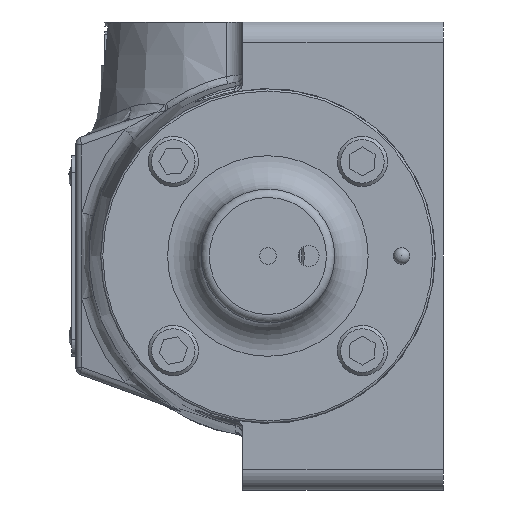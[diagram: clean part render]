
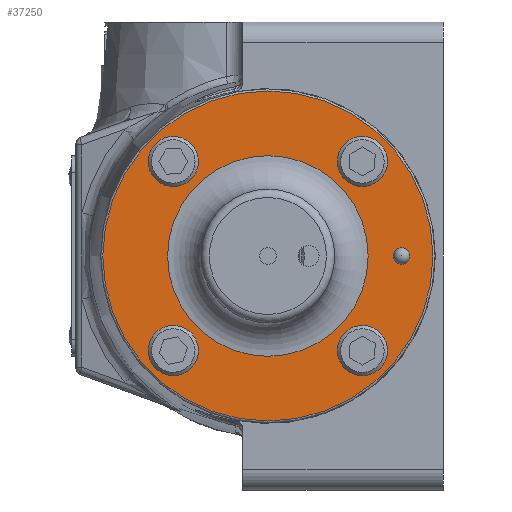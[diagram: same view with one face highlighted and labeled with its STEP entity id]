
A CAD part, left-side view. The second image highlights one B-rep face of the part: STEP entity #37250.
In plain terms, the highlighted planar face has unit normal (-1, 0, 0).
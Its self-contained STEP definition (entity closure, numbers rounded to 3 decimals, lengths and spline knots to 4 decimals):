
#2261=FACE_BOUND('',#6313,.T.);
#2262=FACE_BOUND('',#6314,.T.);
#2263=FACE_BOUND('',#6315,.T.);
#2264=FACE_BOUND('',#6316,.T.);
#2265=FACE_BOUND('',#6317,.T.);
#2266=FACE_BOUND('',#6318,.T.);
#2824=PLANE('',#40262);
#4011=FACE_OUTER_BOUND('',#6312,.T.);
#6312=EDGE_LOOP('',(#27212));
#6313=EDGE_LOOP('',(#27213));
#6314=EDGE_LOOP('',(#27214));
#6315=EDGE_LOOP('',(#27215));
#6316=EDGE_LOOP('',(#27216));
#6317=EDGE_LOOP('',(#27217,#27218));
#6318=EDGE_LOOP('',(#27219));
#8638=CIRCLE('',#40187,1.905);
#8648=CIRCLE('',#40202,3.1353);
#8670=CIRCLE('',#40250,0.1588);
#8671=CIRCLE('',#40251,0.1588);
#8677=CIRCLE('',#40263,0.4763);
#8678=CIRCLE('',#40264,0.4763);
#8679=CIRCLE('',#40265,0.4763);
#8680=CIRCLE('',#40266,0.4763);
#15638=VERTEX_POINT('',#61425);
#15646=VERTEX_POINT('',#61450);
#15686=VERTEX_POINT('',#61578);
#15687=VERTEX_POINT('',#61579);
#15694=VERTEX_POINT('',#61603);
#15695=VERTEX_POINT('',#61605);
#15696=VERTEX_POINT('',#61607);
#15697=VERTEX_POINT('',#61609);
#19745=EDGE_CURVE('',#15638,#15638,#8638,.T.);
#19757=EDGE_CURVE('',#15646,#15646,#8648,.T.);
#19818=EDGE_CURVE('',#15686,#15687,#8670,.T.);
#19819=EDGE_CURVE('',#15687,#15686,#8671,.T.);
#19829=EDGE_CURVE('',#15694,#15694,#8677,.T.);
#19830=EDGE_CURVE('',#15695,#15695,#8678,.T.);
#19831=EDGE_CURVE('',#15696,#15696,#8679,.T.);
#19832=EDGE_CURVE('',#15697,#15697,#8680,.T.);
#27212=ORIENTED_EDGE('',*,*,#19757,.F.);
#27213=ORIENTED_EDGE('',*,*,#19829,.T.);
#27214=ORIENTED_EDGE('',*,*,#19830,.T.);
#27215=ORIENTED_EDGE('',*,*,#19831,.T.);
#27216=ORIENTED_EDGE('',*,*,#19832,.T.);
#27217=ORIENTED_EDGE('',*,*,#19818,.T.);
#27218=ORIENTED_EDGE('',*,*,#19819,.T.);
#27219=ORIENTED_EDGE('',*,*,#19745,.F.);
#37250=ADVANCED_FACE('',(#4011,#2261,#2262,#2263,#2264,#2265,#2266),#2824,
 .F.);
#40187=AXIS2_PLACEMENT_3D('',#61427,#46414,#46415);
#40202=AXIS2_PLACEMENT_3D('',#61452,#46446,#46447);
#40250=AXIS2_PLACEMENT_3D('',#61580,#46581,#46582);
#40251=AXIS2_PLACEMENT_3D('',#61581,#46583,#46584);
#40262=AXIS2_PLACEMENT_3D('',#61602,#46609,#46610);
#40263=AXIS2_PLACEMENT_3D('',#61604,#46611,#46612);
#40264=AXIS2_PLACEMENT_3D('',#61606,#46613,#46614);
#40265=AXIS2_PLACEMENT_3D('',#61608,#46615,#46616);
#40266=AXIS2_PLACEMENT_3D('',#61610,#46617,#46618);
#46414=DIRECTION('center_axis',(-1.,0.,0.));
#46415=DIRECTION('ref_axis',(0.,0.,
-1.));
#46446=DIRECTION('center_axis',(1.,0.,0.));
#46447=DIRECTION('ref_axis',(0.,0.,
-1.));
#46581=DIRECTION('center_axis',(1.,0.,0.));
#46582=DIRECTION('ref_axis',(0.,0.,
-1.));
#46583=DIRECTION('center_axis',(1.,0.,0.));
#46584=DIRECTION('ref_axis',(0.,0.,
-1.));
#46609=DIRECTION('center_axis',(1.,0.,0.));
#46610=DIRECTION('ref_axis',(0.,0.,
-1.));
#46611=DIRECTION('center_axis',(1.,0.,0.));
#46612=DIRECTION('ref_axis',(0.,-0.2,-0.98));
#46613=DIRECTION('center_axis',(1.,0.,0.));
#46614=DIRECTION('ref_axis',(0.,-0.004,
-1.));
#46615=DIRECTION('center_axis',(1.,0.,0.));
#46616=DIRECTION('ref_axis',(0.,-0.488,-0.873));
#46617=DIRECTION('center_axis',(1.,0.,0.));
#46618=DIRECTION('ref_axis',(0.,-1.,-0.02));
#61425=CARTESIAN_POINT('',(-6.1074,0.,1.905));
#61427=CARTESIAN_POINT('Origin',(-6.1074,0.,0.));
#61450=CARTESIAN_POINT('',(-6.1074,0.,3.1353));
#61452=CARTESIAN_POINT('Origin',(-6.1074,0.,0.));
#61578=CARTESIAN_POINT('',(-6.1074,-2.54,0.1588));
#61579=CARTESIAN_POINT('',(-6.1074,-2.54,-0.1587));
#61580=CARTESIAN_POINT('Origin',(-6.1074,-2.54,0.));
#61581=CARTESIAN_POINT('Origin',(-6.1074,-2.54,0.));
#61602=CARTESIAN_POINT('Origin',(-6.1074,0.,0.));
#61603=CARTESIAN_POINT('',(-6.1074,1.8912,-1.3294));
#61604=CARTESIAN_POINT('Origin',(-6.1074,1.7961,-1.7961));
#61605=CARTESIAN_POINT('',(-6.1074,1.798,2.2723));
#61606=CARTESIAN_POINT('Origin',(-6.1074,1.7961,1.7961));
#61607=CARTESIAN_POINT('',(-6.1074,-1.5638,2.2119));
#61608=CARTESIAN_POINT('Origin',(-6.1074,-1.7961,1.7961));
#61609=CARTESIAN_POINT('',(-6.1074,-1.3199,-1.7864));
#61610=CARTESIAN_POINT('Origin',(-6.1074,-1.7961,-1.7961));
